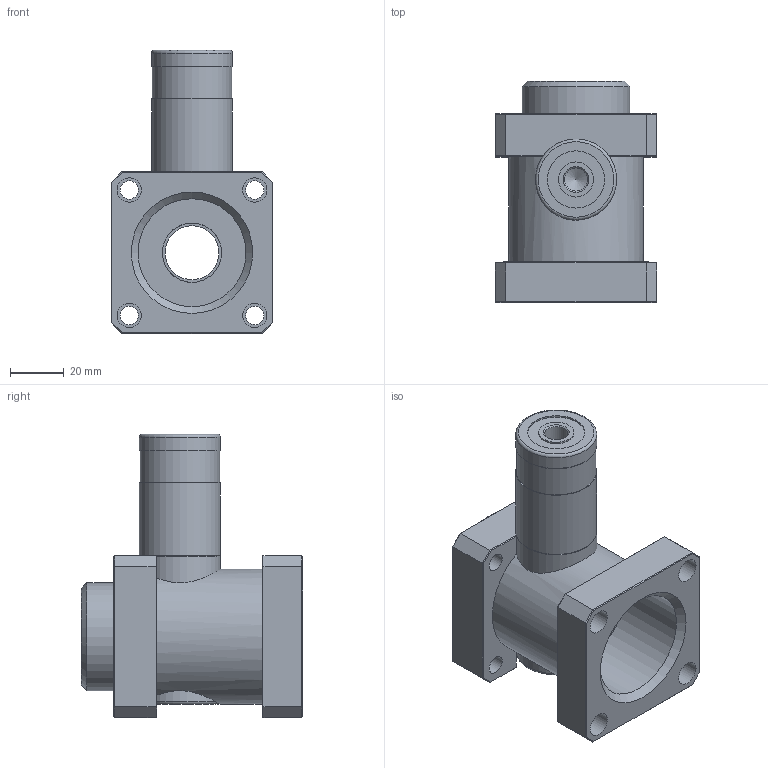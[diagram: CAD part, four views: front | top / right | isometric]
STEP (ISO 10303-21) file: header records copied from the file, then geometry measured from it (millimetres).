
FILE_DESCRIPTION(('STEP AP242'),'1');
FILE_NAME('A.6020 + MA.7050 Feststellpatrone mit Zylinderaufnahme.stp','2026-07-01T13:22:02',(' '),(' '),'Spatial InterOp 3D',' ',' ');
FILE_SCHEMA(('AP242_MANAGED_MODEL_BASED_3D_ENGINEERING_MIM_LF {1 0 10303 442 1 1 4}'));
Length unit declared in the file: millimetre
Products named in the file (3): A.6020 + MA.7050 Feststellpatrone mit Zylinderaufnahme; MA.7050 (M.7050); A.6020 Feststellpatrone
Assembly tree (2 placements, depth 2):
  A.6020 + MA.7050 Feststellpatrone mit Zylinderaufnahme
    MA.7050 (M.7050)
    A.6020 Feststellpatrone
Bounding box: 60 x 82 x 105 mm (x, y, z)
Volume: 175188.9 mm3; surface area: 45858.8 mm2
Topology: 2 solids, 2 shells, 101 faces, 232 edges, 143 vertices
Faces by surface type: plane 66, cylinder 26, cone 7, torus 2
Full cylindrical faces by diameter (mm): 6.8 x4, 8.566 x2, 9 x4, 13 x1, 20 x2, 21.2 x1, 22 x4, 29.5 x1, 30 x4, 40 x2, 50 x1
Entity records: 4130 total; most frequent: CARTESIAN_POINT 925, DIRECTION 446, ORIENTED_EDGE 370, EDGE_CURVE 185, EDGE_LOOP 168, AXIS2_PLACEMENT_3D 163, VERTEX_POINT 132, FACE_OUTER_BOUND 129
